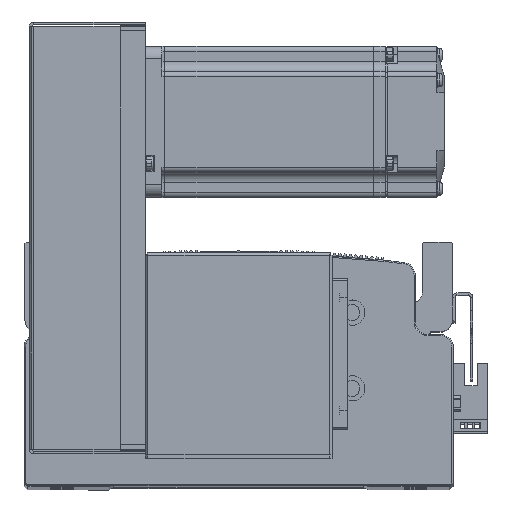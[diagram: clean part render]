
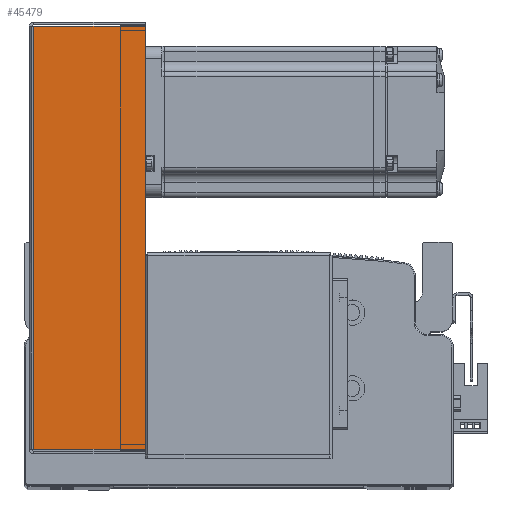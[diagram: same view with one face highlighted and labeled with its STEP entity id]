
A CAD part, top view. The second image highlights one B-rep face of the part: STEP entity #45479.
In plain terms, the highlighted planar face has unit normal (0, 0, 1) as drawn and (0, 0, -1) by its records, which use the part's own axes.
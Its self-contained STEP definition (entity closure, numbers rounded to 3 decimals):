
#18114 = FACE_OUTER_BOUND ( 'NONE', #61276, .T. ) ;
#20041 = CARTESIAN_POINT ( 'NONE',  ( 0., 0., -40.5 ) ) ;
#20042 = PLANE ( 'NONE',  #30534 ) ;
#20060 = DIRECTION ( 'NONE',  ( 0., -1., 0. ) ) ;
#20083 = DIRECTION ( 'NONE',  ( 0., 0., 1. ) ) ;
#30534 = AXIS2_PLACEMENT_3D ( 'NONE', #20041, #20083, #20060 ) ;
#31554 = CARTESIAN_POINT ( 'NONE',  ( -83.793, 0.737, -40.5 ) ) ;
#31662 = CARTESIAN_POINT ( 'NONE',  ( 83.793, 45., -40.5 ) ) ;
#31722 = CARTESIAN_POINT ( 'NONE',  ( -83.793, 45., -40.5 ) ) ;
#31746 = CARTESIAN_POINT ( 'NONE',  ( 83.793, 0.737, -40.5 ) ) ;
#40764 = LINE ( 'NONE', #42683, #40765 ) ;
#40765 = VECTOR ( 'NONE', #42688, 1000. ) ;
#40827 = LINE ( 'NONE', #42764, #40839 ) ;
#40834 = LINE ( 'NONE', #42693, #40845 ) ;
#40839 = VECTOR ( 'NONE', #42759, 1000. ) ;
#40845 = VECTOR ( 'NONE', #42727, 1000. ) ;
#40897 = VECTOR ( 'NONE', #42853, 1000. ) ;
#40937 = LINE ( 'NONE', #42829, #40897 ) ;
#42683 = CARTESIAN_POINT ( 'NONE',  ( 84.5, 45., -40.5 ) ) ;
#42688 = DIRECTION ( 'NONE',  ( 1., 0., 0. ) ) ;
#42693 = CARTESIAN_POINT ( 'NONE',  ( -83.793, 0., -40.5 ) ) ;
#42727 = DIRECTION ( 'NONE',  ( 0., 1., 0. ) ) ;
#42759 = DIRECTION ( 'NONE',  ( 0., 1., 0. ) ) ;
#42764 = CARTESIAN_POINT ( 'NONE',  ( 83.793, 0., -40.5 ) ) ;
#42829 = CARTESIAN_POINT ( 'NONE',  ( 0., 0.737, -40.5 ) ) ;
#42853 = DIRECTION ( 'NONE',  ( 1., 0., 0. ) ) ;
#45479 = ADVANCED_FACE ( 'NONE', ( #18114 ), #20042, .F. ) ;
#61276 = EDGE_LOOP ( 'NONE', ( #64493, #64473, #64442, #64465 ) ) ;
#63031 = VERTEX_POINT ( 'NONE', #31554 ) ;
#63036 = VERTEX_POINT ( 'NONE', #31746 ) ;
#63041 = VERTEX_POINT ( 'NONE', #31722 ) ;
#63084 = VERTEX_POINT ( 'NONE', #31662 ) ;
#64442 = ORIENTED_EDGE ( 'NONE', *, *, #65972, .T. ) ;
#64465 = ORIENTED_EDGE ( 'NONE', *, *, #66010, .F. ) ;
#64473 = ORIENTED_EDGE ( 'NONE', *, *, #65992, .T. ) ;
#64493 = ORIENTED_EDGE ( 'NONE', *, *, #66037, .F. ) ;
#65972 = EDGE_CURVE ( 'NONE', #63041, #63084, #40764, .T. ) ;
#65992 = EDGE_CURVE ( 'NONE', #63031, #63041, #40834, .T. ) ;
#66010 = EDGE_CURVE ( 'NONE', #63036, #63084, #40827, .T. ) ;
#66037 = EDGE_CURVE ( 'NONE', #63031, #63036, #40937, .T. ) ;
